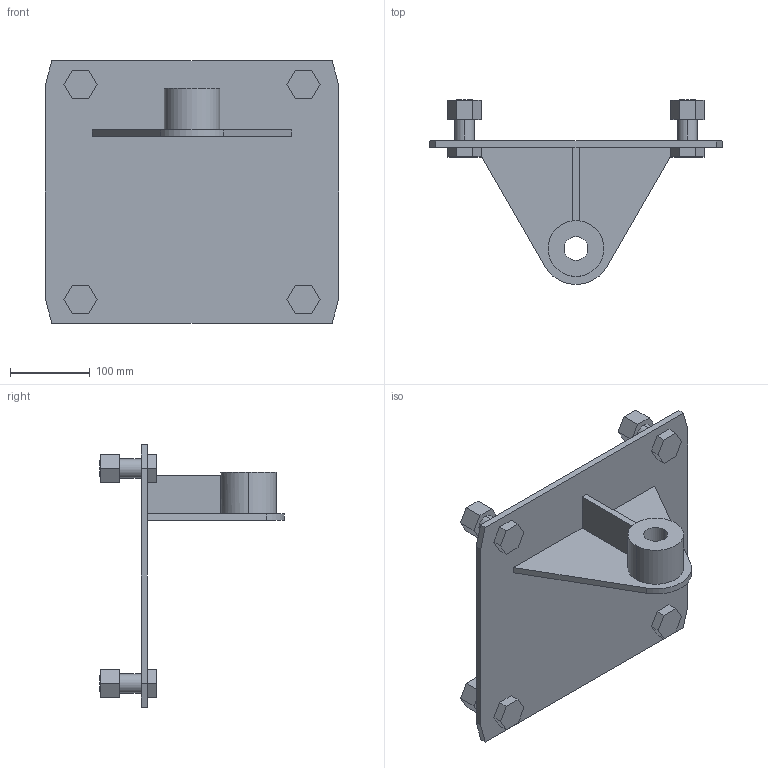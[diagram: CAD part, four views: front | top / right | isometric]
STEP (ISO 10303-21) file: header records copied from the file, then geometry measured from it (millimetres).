
FILE_DESCRIPTION(/* description */ (''),/* implementation_level */ '2;1');
FILE_NAME(/* name */ '6_BRAZZIO DI REAZIONE B153',/* time_stamp */ '2025-10-22T11:35:08+02:00',/* author */ (''),/* organization */ (''),/* preprocessor_version */ 'ST-DEVELOPER v19.2',/* originating_system */ 'Rhino 8.23',/* authorisation */ '');
FILE_SCHEMA (('CONFIG_CONTROL_DESIGN'));
Length unit declared in the file: millimetre
Products named in the file (2): Document; 153-368U-B15008
Bounding box: 368 x 232 x 330 mm (x, y, z)
Volume: 1576449.6 mm3; surface area: 366687.3 mm2
Topology: 1 solids, 1 shells, 123 faces, 292 edges, 192 vertices
Faces by surface type: plane 86, cylinder 29, bspline 8
Entity records: 3619 total; most frequent: CARTESIAN_POINT 1043, ORIENTED_EDGE 584, EDGE_CURVE 292, DIRECTION 259, B_SPLINE_CURVE_WITH_KNOTS 224, VERTEX_POINT 192, AXIS2_PLACEMENT_3D 187, EDGE_LOOP 146
